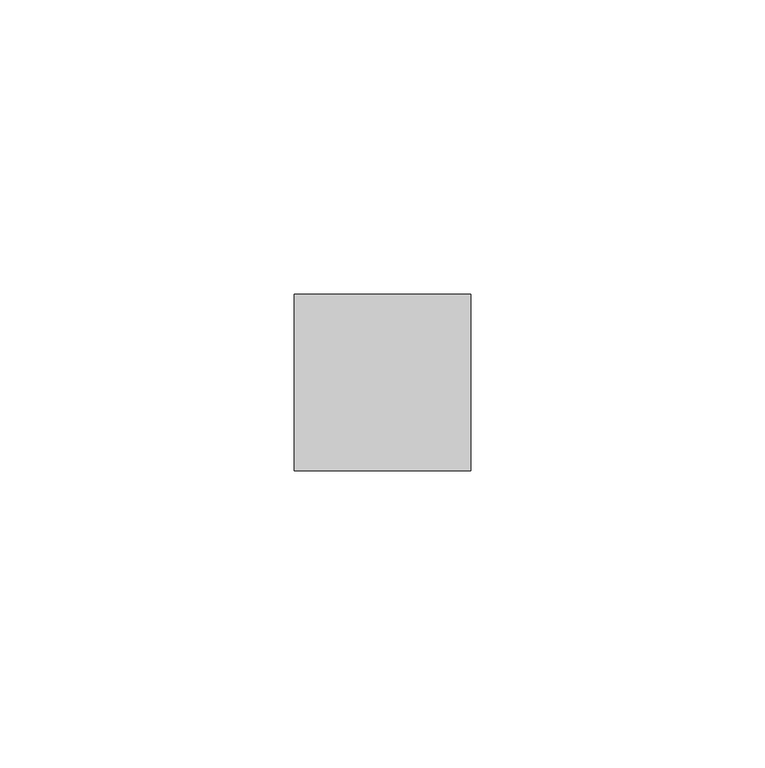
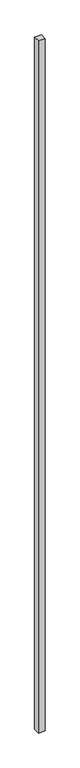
"""IFC4 building model written with IfcOpenShell, lengths in millimetres: member geometry, 矩形竖梃 : 30mm 正方形."""

from ifc_helpers import new_model, si_unit, frame, origin, place, context, project, spatial, polyline, outline, extrude, source, transform, mapped, element, save


def member_e58bfd49(model_context):
    return source(origin(), model_context, "Body", "SweptSolid", [
        extrude(outline(polyline([(15.0, 15.0), (15.0, -15.0), (-15.0, -15.0), (-15.0, 15.0), (15.0, 15.0)])), frame((0.0, 0.0, -3270.0), z_axis=(0.0, 0.0, 1.0), x_axis=(1.0, 0.0, 0.0)), (0.0, 0.0, 1.0), 3270.0),
    ])


if __name__ == "__main__":
    model = new_model("IFC4")
    model_context = context("Model", 3, world=origin())
    ifc_project = project(units=[si_unit("LENGTHUNIT", "METRE", prefix="MILLI")], contexts=[model_context])
    site = spatial("IfcSite", under=ifc_project)
    building = spatial("IfcBuilding", under=site)
    placement = place(None, origin())
    member_shape = member_e58bfd49(model_context)
    element("IfcMember", 1, ObjectType="矩形竖梃 : 30mm 正方形", at=placement, inside=building, context=model_context, shape_type="MappedRepresentation", body=[
        mapped(member_shape, transform((0.0, 0.0, 0.0), x_axis=(1.0, 0.0, 0.0), y_axis=(0.0, 1.0, 0.0), z_axis=(0.0, 0.0, 1.0))),
    ])
    save(model, "model.ifc")
